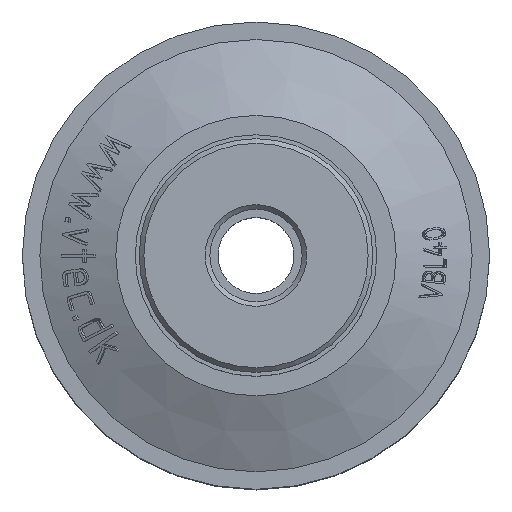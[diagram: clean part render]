
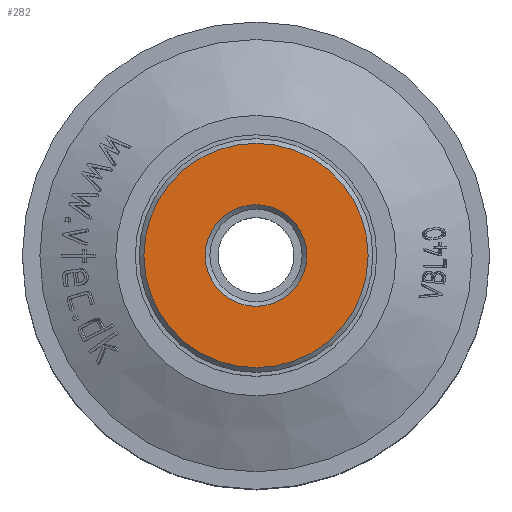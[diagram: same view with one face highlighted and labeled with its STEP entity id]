
A CAD part, top view. The second image highlights one B-rep face of the part: STEP entity #282.
In plain terms, the highlighted planar face has unit normal (0, 0, 1).
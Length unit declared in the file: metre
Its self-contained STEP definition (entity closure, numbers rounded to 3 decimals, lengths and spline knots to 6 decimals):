
#282 = ADVANCED_FACE( '', ( #769, #770 ), #771, .F. );
#769 = FACE_BOUND( '', #4833, .T. );
#770 = FACE_OUTER_BOUND( '', #4834, .T. );
#771 = PLANE( '', #4835 );
#4833 = EDGE_LOOP( '', ( #5963 ) );
#4834 = EDGE_LOOP( '', ( #5964 ) );
#4835 = AXIS2_PLACEMENT_3D( '', #5965, #5966, #5967 );
#5963 = ORIENTED_EDGE( '', *, *, #6388, .T. );
#5964 = ORIENTED_EDGE( '', *, *, #6095, .T. );
#5965 = CARTESIAN_POINT( '', ( -0.00395, 0., 0.021 ) );
#5966 = DIRECTION( '', ( 0., 0., -1. ) );
#5967 = DIRECTION( '', ( -1., 0., 0. ) );
#6095 = EDGE_CURVE( '', #6683, #6683, #6684, .F. );
#6388 = EDGE_CURVE( '', #7133, #7133, #7134, .T. );
#6683 = VERTEX_POINT( '', #8278 );
#6684 = CIRCLE( '', #8279, 0.0096 );
#7133 = VERTEX_POINT( '', #10057 );
#7134 = CIRCLE( '', #10058, 0.00435 );
#8278 = CARTESIAN_POINT( '', ( -0.0096, 0., 0.021 ) );
#8279 = AXIS2_PLACEMENT_3D( '', #10145, #10146, #10147 );
#10057 = CARTESIAN_POINT( '', ( -0.00435, 0., 0.021 ) );
#10058 = AXIS2_PLACEMENT_3D( '', #10242, #10243, #10244 );
#10145 = CARTESIAN_POINT( '', ( 0., 0., 0.021 ) );
#10146 = DIRECTION( '', ( 0., 0., -1. ) );
#10147 = DIRECTION( '', ( -1., 0., 0. ) );
#10242 = CARTESIAN_POINT( '', ( 0., 0., 0.021 ) );
#10243 = DIRECTION( '', ( 0., 0., -1. ) );
#10244 = DIRECTION( '', ( -1., 0., 0. ) );
